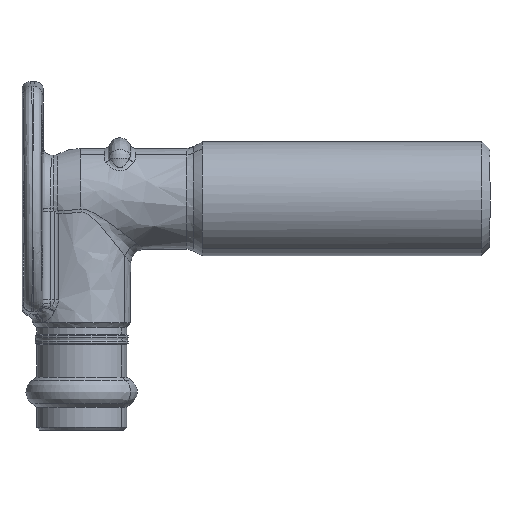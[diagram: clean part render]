
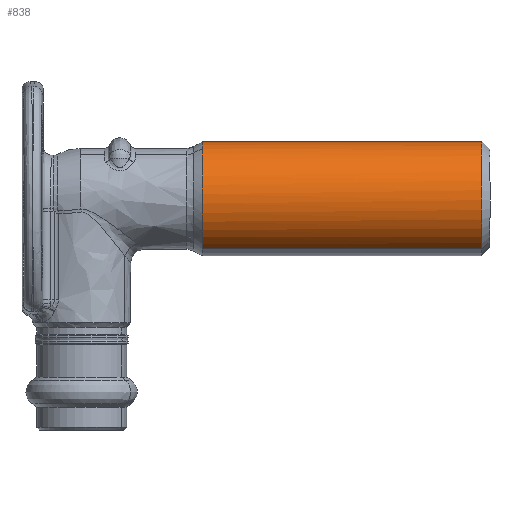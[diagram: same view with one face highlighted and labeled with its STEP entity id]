
A CAD part, front view. The second image highlights one B-rep face of the part: STEP entity #838.
In plain terms, the highlighted free-form (B-spline) face has degree [1, 2] with [2, 5] control points.
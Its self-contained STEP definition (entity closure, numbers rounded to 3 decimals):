
#838=ADVANCED_FACE('',(#2275),#2276,.T.);
#1534=VERTEX_POINT('',#3047);
#1538=VERTEX_POINT('',#3051);
#1540=EDGE_CURVE('',#1538,#1534,#3053,.T.);
#1548=VERTEX_POINT('',#3061);
#1552=EDGE_CURVE('',#1548,#1534,#3065,.T.);
#1718=VERTEX_POINT('',#3231);
#1720=EDGE_CURVE('',#1548,#1718,#3233,.T.);
#1722=VERTEX_POINT('',#3235);
#1724=EDGE_CURVE('',#1718,#1722,#3237,.T.);
#1726=EDGE_CURVE('',#1538,#1722,#3239,.T.);
#2275=FACE_OUTER_BOUND('',#4959,.T.);
#2276=(B_SPLINE_SURFACE(1,2,((#4961,#4962,#4963,#4964,#4965),(#4966,#4967,#4968,#4969,#4970)),.UNSPECIFIED.,.F.,.F.,.F.)B_SPLINE_SURFACE_WITH_KNOTS((2,2),(3,2,3),(0.0,1.0),(0.0,0.51,1.0),.UNSPECIFIED.)RATIONAL_B_SPLINE_SURFACE(((1.0,0.689,1.0,0.701,0.976),(1.0,0.689,1.0,0.701,0.976)))BOUNDED_SURFACE()REPRESENTATION_ITEM('')GEOMETRIC_REPRESENTATION_ITEM()SURFACE());
#3047=CARTESIAN_POINT('',(22.126,-5.023,9.195));
#3051=CARTESIAN_POINT('',(22.126,5.023,9.195));
#3053=CIRCLE('',#8793,10.478);
#3061=CARTESIAN_POINT('',(22.126,-5.023,-9.195));
#3065=CIRCLE('',#8810,10.478);
#3231=CARTESIAN_POINT('',(73.523,-5.023,-9.195));
#3233=LINE('',#9352,#9353);
#3235=CARTESIAN_POINT('',(73.523,5.023,9.195));
#3237=CIRCLE('',#9358,10.478);
#3239=LINE('',#9361,#9362);
#4959=EDGE_LOOP('',(#10471,#10472,#10473,#10474,#10475));
#4961=CARTESIAN_POINT('',(22.126,-5.023,-9.195));
#4962=CARTESIAN_POINT('',(22.126,-14.708,-3.904));
#4963=CARTESIAN_POINT('',(22.126,-8.922,5.494));
#4964=CARTESIAN_POINT('',(22.126,-3.464,14.357));
#4965=CARTESIAN_POINT('',(22.126,5.435,8.958));
#4966=CARTESIAN_POINT('',(73.523,-5.023,-9.195));
#4967=CARTESIAN_POINT('',(73.523,-14.708,-3.904));
#4968=CARTESIAN_POINT('',(73.523,-8.922,5.494));
#4969=CARTESIAN_POINT('',(73.523,-3.464,14.357));
#4970=CARTESIAN_POINT('',(73.523,5.435,8.958));
#8793=AXIS2_PLACEMENT_3D('',#11007,#11008,#11009);
#8810=AXIS2_PLACEMENT_3D('',#11017,#11018,#11019);
#9352=CARTESIAN_POINT('',(22.126,-5.023,-9.195));
#9353=VECTOR('',#11050,1.0);
#9358=AXIS2_PLACEMENT_3D('',#11051,#11052,#11053);
#9361=CARTESIAN_POINT('',(22.126,5.023,9.195));
#9362=VECTOR('',#11054,1.0);
#10471=ORIENTED_EDGE('',*,*,#1720,.T.);
#10472=ORIENTED_EDGE('',*,*,#1724,.T.);
#10473=ORIENTED_EDGE('',*,*,#1726,.F.);
#10474=ORIENTED_EDGE('',*,*,#1540,.T.);
#10475=ORIENTED_EDGE('',*,*,#1552,.F.);
#11007=CARTESIAN_POINT('',(22.126,0.,0.));
#11008=DIRECTION('',(1.0,0.,0.));
#11009=DIRECTION('',(0.,0.479,0.878));
#11017=CARTESIAN_POINT('',(22.126,0.,0.));
#11018=DIRECTION('',(-1.0,0.,0.));
#11019=DIRECTION('',(0.,-0.479,-0.878));
#11050=DIRECTION('',(1.0,0.,0.));
#11051=CARTESIAN_POINT('',(73.523,0.,0.));
#11052=DIRECTION('',(-1.0,0.,0.));
#11053=DIRECTION('',(0.,-0.479,-0.878));
#11054=DIRECTION('',(1.0,0.,0.));
